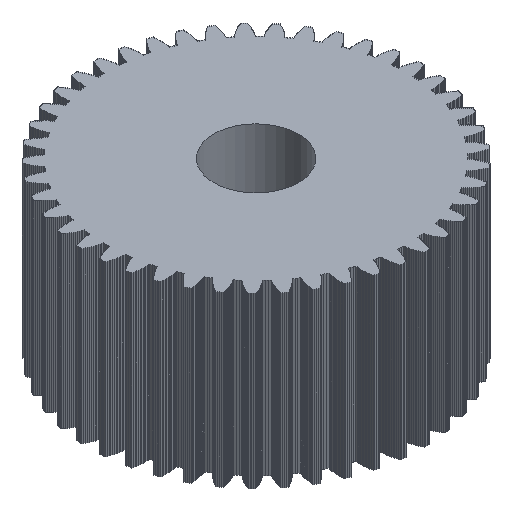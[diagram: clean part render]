
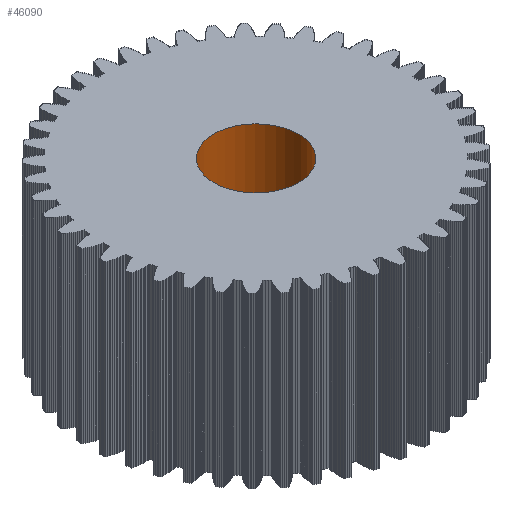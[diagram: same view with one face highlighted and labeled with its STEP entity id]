
A CAD part, isometric view. The second image highlights one B-rep face of the part: STEP entity #46090.
In plain terms, the highlighted cylindrical face has radius 6 mm (diameter 12 mm), a full revolution.
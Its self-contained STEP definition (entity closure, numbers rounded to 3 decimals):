
#11262 = EDGE_CURVE('',#11263,#11263,#11265,.T.);
#11263 = VERTEX_POINT('',#11264);
#11264 = CARTESIAN_POINT('',(25.515,0.419,175.));
#11265 = CIRCLE('',#11266,6.);
#11266 = AXIS2_PLACEMENT_3D('',#11267,#11268,#11269);
#11267 = CARTESIAN_POINT('',(31.5,0.,175.));
#11268 = DIRECTION('',(0.,0.,1.));
#11269 = DIRECTION('',(-0.998,0.07,0.));
#22418 = EDGE_CURVE('',#22419,#22419,#22421,.T.);
#22419 = VERTEX_POINT('',#22420);
#22420 = CARTESIAN_POINT('',(25.515,0.419,199.));
#22421 = CIRCLE('',#22422,6.);
#22422 = AXIS2_PLACEMENT_3D('',#22423,#22424,#22425);
#22423 = CARTESIAN_POINT('',(31.5,0.,199.));
#22424 = DIRECTION('',(0.,0.,1.));
#22425 = DIRECTION('',(-0.998,0.07,0.));
#46090 = ADVANCED_FACE('',(#46091),#46102,.F.);
#46091 = FACE_BOUND('',#46092,.F.);
#46092 = EDGE_LOOP('',(#46093,#46094,#46100,#46101));
#46093 = ORIENTED_EDGE('',*,*,#22418,.F.);
#46094 = ORIENTED_EDGE('',*,*,#46095,.F.);
#46095 = EDGE_CURVE('',#11263,#22419,#46096,.T.);
#46096 = LINE('',#46097,#46098);
#46097 = CARTESIAN_POINT('',(25.515,0.419,175.));
#46098 = VECTOR('',#46099,1.);
#46099 = DIRECTION('',(0.,0.,1.));
#46100 = ORIENTED_EDGE('',*,*,#11262,.T.);
#46101 = ORIENTED_EDGE('',*,*,#46095,.T.);
#46102 = CYLINDRICAL_SURFACE('',#46103,6.);
#46103 = AXIS2_PLACEMENT_3D('',#46104,#46105,#46106);
#46104 = CARTESIAN_POINT('',(31.5,0.,175.));
#46105 = DIRECTION('',(0.,0.,1.));
#46106 = DIRECTION('',(-0.998,0.07,0.));
